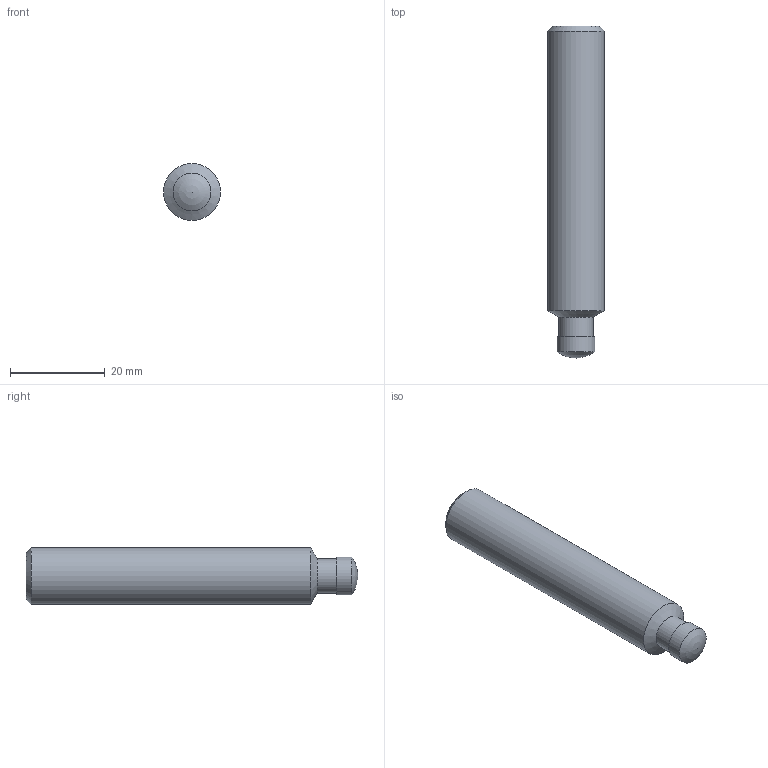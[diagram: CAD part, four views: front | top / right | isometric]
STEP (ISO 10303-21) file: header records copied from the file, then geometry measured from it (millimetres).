
FILE_DESCRIPTION( ( 'STEP AP203' ), '1' );
FILE_NAME( 'C:/Temp/Ganter_Step_05_03_2020/data/3_2/din6332/din6332_ni/Stainless Steel-Grub screw DIN 6332-M12-70-SKN-NI.stp', '2020-03-13T05:16:44', ( 'License CC BY-ND 4.0' ), ( 'CADENAS' ), ' ', 'PARTsolutions', ' ' );
FILE_SCHEMA( ( 'CONFIG_CONTROL_DESIGN' ) );
Length unit declared in the file: millimetre
Products named in the file (1): _Stainless Steel-Grub screw DIN 6332-M12-70-SKN-NI
Bounding box: 12 x 70 x 12 mm (x, y, z)
Volume: 7105 mm3; surface area: 2755 mm2
Topology: 1 solids, 1 shells, 15 faces, 33 edges, 21 vertices
Faces by surface type: plane 9, cylinder 3, cone 2, sphere 1
Full cylindrical faces by diameter (mm): 7.2 x1, 8 x1, 12 x1
Entity records: 410 total; most frequent: DIRECTION 64, CARTESIAN_POINT 61, ORIENTED_EDGE 50, EDGE_CURVE 25, AXIS2_PLACEMENT_3D 23, EDGE_LOOP 22, VERTEX_POINT 20, FACE_OUTER_BOUND 18
